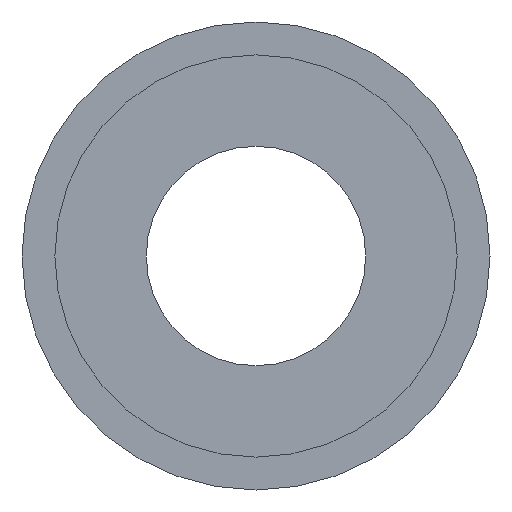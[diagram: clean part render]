
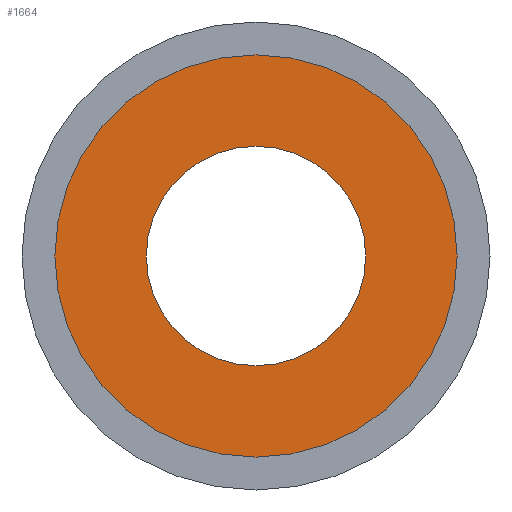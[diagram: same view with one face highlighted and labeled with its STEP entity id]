
A CAD part, front view. The second image highlights one B-rep face of the part: STEP entity #1664.
In plain terms, the highlighted planar face has unit normal (0, -1, 0).
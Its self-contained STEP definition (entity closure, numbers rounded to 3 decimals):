
#40 = VERTEX_POINT ( 'NONE', #1946 ) ;
#113 = CIRCLE ( 'NONE', #594, 15. ) ;
#246 = FACE_BOUND ( 'NONE', #2505, .T. ) ;
#328 = EDGE_CURVE ( 'NONE', #2419, #40, #1533, .T. ) ;
#365 = DIRECTION ( 'NONE',  ( 0., -1., 0. ) ) ;
#383 = DIRECTION ( 'NONE',  ( 0., 0., -1. ) ) ;
#594 = AXIS2_PLACEMENT_3D ( 'NONE', #715, #960, #1368 ) ;
#715 = CARTESIAN_POINT ( 'NONE',  ( 0., -14., 0. ) ) ;
#739 = VERTEX_POINT ( 'NONE', #1187 ) ;
#755 = DIRECTION ( 'NONE',  ( 0., 0., 1. ) ) ;
#827 = CIRCLE ( 'NONE', #2295, 27.5 ) ;
#831 = DIRECTION ( 'NONE',  ( 0., 0., -1. ) ) ;
#960 = DIRECTION ( 'NONE',  ( 0., -1., 0. ) ) ;
#1068 = CARTESIAN_POINT ( 'NONE',  ( 0., -14., 0. ) ) ;
#1160 = AXIS2_PLACEMENT_3D ( 'NONE', #1470, #365, #383 ) ;
#1187 = CARTESIAN_POINT ( 'NONE',  ( 0., -14., 15. ) ) ;
#1203 = CIRCLE ( 'NONE', #1535, 15. ) ;
#1215 = DIRECTION ( 'NONE',  ( 0., 1., 0. ) ) ;
#1246 = CARTESIAN_POINT ( 'NONE',  ( 0., -14., -15. ) ) ;
#1285 = ORIENTED_EDGE ( 'NONE', *, *, #2616, .F. ) ;
#1360 = DIRECTION ( 'NONE',  ( 0., 0., -1. ) ) ;
#1361 = EDGE_LOOP ( 'NONE', ( #1942, #2020 ) ) ;
#1368 = DIRECTION ( 'NONE',  ( 0., 0., -1. ) ) ;
#1470 = CARTESIAN_POINT ( 'NONE',  ( 0., -14., 0. ) ) ;
#1520 = EDGE_CURVE ( 'NONE', #739, #2841, #113, .T. ) ;
#1533 = CIRCLE ( 'NONE', #1160, 27.5 ) ;
#1535 = AXIS2_PLACEMENT_3D ( 'NONE', #2060, #1788, #1360 ) ;
#1635 = PLANE ( 'NONE',  #2361 ) ;
#1664 = ADVANCED_FACE ( 'NONE', ( #246, #2795 ), #1635, .F. ) ;
#1788 = DIRECTION ( 'NONE',  ( 0., -1., 0. ) ) ;
#1942 = ORIENTED_EDGE ( 'NONE', *, *, #328, .T. ) ;
#1946 = CARTESIAN_POINT ( 'NONE',  ( 0., -14., 27.5 ) ) ;
#2020 = ORIENTED_EDGE ( 'NONE', *, *, #2373, .T. ) ;
#2060 = CARTESIAN_POINT ( 'NONE',  ( 0., -14., 0. ) ) ;
#2137 = DIRECTION ( 'NONE',  ( 0., -1., 0. ) ) ;
#2283 = CARTESIAN_POINT ( 'NONE',  ( 0., -14., 15. ) ) ;
#2295 = AXIS2_PLACEMENT_3D ( 'NONE', #1068, #2137, #831 ) ;
#2361 = AXIS2_PLACEMENT_3D ( 'NONE', #2283, #1215, #755 ) ;
#2373 = EDGE_CURVE ( 'NONE', #40, #2419, #827, .T. ) ;
#2389 = ORIENTED_EDGE ( 'NONE', *, *, #1520, .F. ) ;
#2419 = VERTEX_POINT ( 'NONE', #2585 ) ;
#2505 = EDGE_LOOP ( 'NONE', ( #1285, #2389 ) ) ;
#2585 = CARTESIAN_POINT ( 'NONE',  ( 0., -14., -27.5 ) ) ;
#2616 = EDGE_CURVE ( 'NONE', #2841, #739, #1203, .T. ) ;
#2795 = FACE_OUTER_BOUND ( 'NONE', #1361, .T. ) ;
#2841 = VERTEX_POINT ( 'NONE', #1246 ) ;
